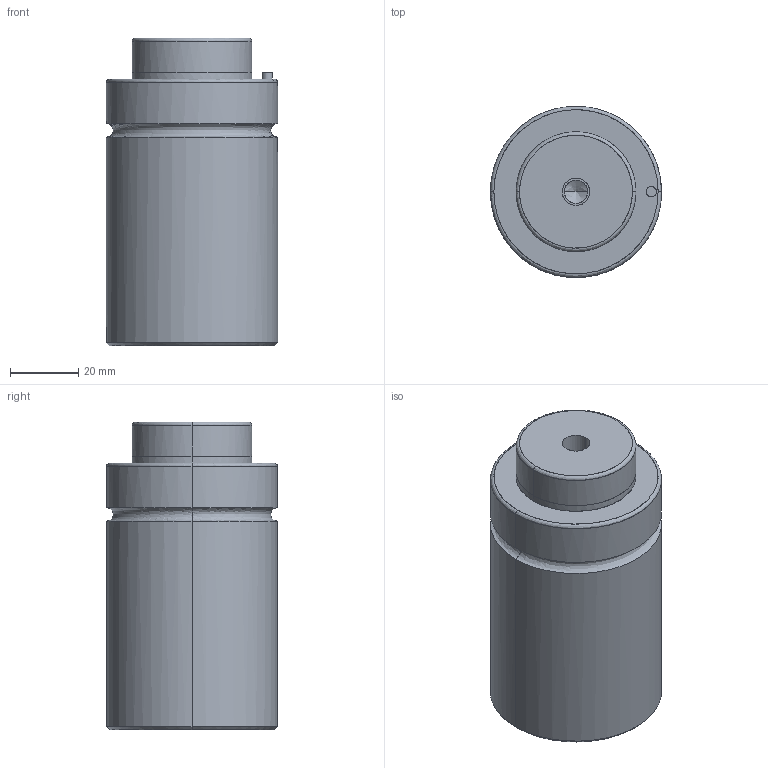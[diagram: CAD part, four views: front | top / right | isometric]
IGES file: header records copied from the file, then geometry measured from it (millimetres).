
Global section: file name: E:\UnigraphicsGraphicData\MISUMI_PRESS-PARTS\IGES\3d_gsm50-10_03904_r00.igs; native system: NX V5.0; preprocessor: UGS NX IGES V5.0; author: MISUMI; date: 20110105.160814; units: millimetre
Bounding box: 50 x 49.88 x 90 mm (x, y, z)
Surface area: 19061.1 mm2 (no closed solid volume)
Topology: 0 solids, 0 shells, 50 faces, 344 edges, 336 vertices
Faces by surface type: bspline 50
